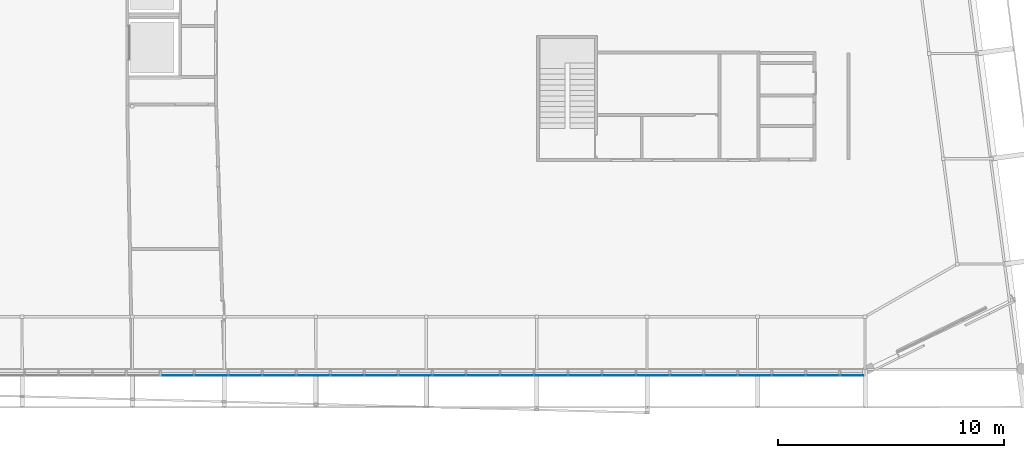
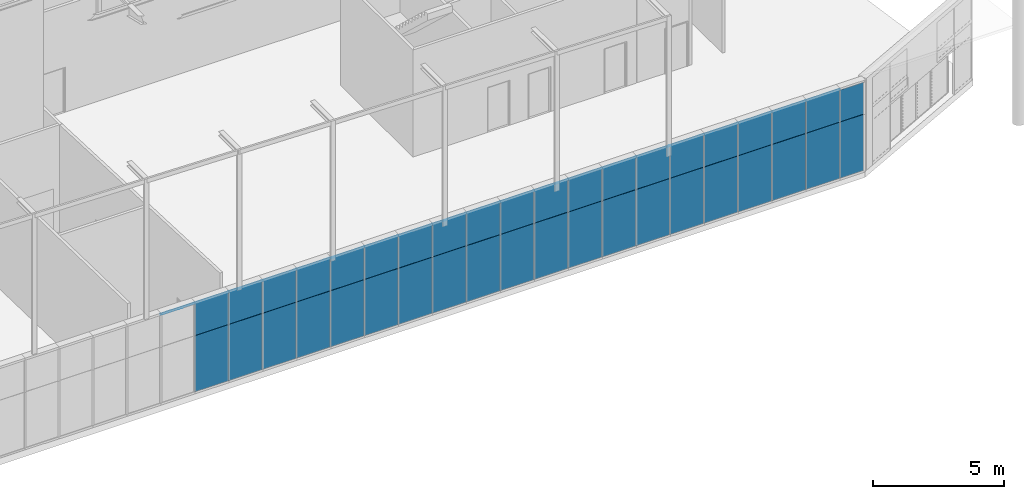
# One storey, part 21 of 40: 60 plates, 1 element without a shape of its own.
"""IFC2X3 building model written with IfcOpenShell, lengths in metres."""

from ifc_helpers import new_model, entity, si_unit, converted_unit, money_unit, direction, frame, origin_with_axes, place, context, subcontext, project, spatial, polyline, outline, extrude, material, type_object, element, aggregate, save


model = new_model("IFC2X3")

# Units and contexts
model_context = context("Model", 3, precision=1e-05, world=origin_with_axes(), true_north=direction((0.0, 1.0)))
body_context = subcontext(model_context, "Body", "Model", "MODEL_VIEW")
ifc_project = project(units=[si_unit("LENGTHUNIT", "METRE"), si_unit("AREAUNIT", "SQUARE_METRE"), si_unit("VOLUMEUNIT", "CUBIC_METRE"), converted_unit("PLANEANGLEUNIT", "DEGREE", entity("IfcPlaneAngleMeasure", 0.0174532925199), si_unit("PLANEANGLEUNIT", "RADIAN"), dimensions=[0, 0, 0, 0, 0, 0, 0]), si_unit("SOLIDANGLEUNIT", "STERADIAN"), money_unit("EUR"), converted_unit("TIMEUNIT", "Year", entity("IfcTimeMeasure", 31556926.0), si_unit("TIMEUNIT", "SECOND"), dimensions=[0, 0, 0, 0, 0, 0, 0]), si_unit("MASSUNIT", "GRAM"), si_unit("THERMODYNAMICTEMPERATUREUNIT", "DEGREE_CELSIUS"), si_unit("LUMINOUSINTENSITYUNIT", "LUMEN")], contexts=[model_context])

# Site, building, storey
site_placement = place(None, origin_with_axes())
site = spatial("IfcSite", under=ifc_project, at=site_placement, Name="Undefined", CompositionType="ELEMENT")
building_placement = place(site_placement, origin_with_axes())
building = spatial("IfcBuilding", under=site, at=building_placement, Name="Undefined", CompositionType="ELEMENT")
storey_placement = place(building_placement, origin_with_axes())
storey = spatial("IfcBuildingStorey", under=building, at=storey_placement, Name="Rez de chauss\x8ee", CompositionType="ELEMENT", Elevation=0.0)

# Curtain wall, plates
curtain_wall_type = type_object("IfcCurtainWallType", Name="Type de mur-rideau", PredefinedType="NOTDEFINED")
curtain_wall_placement = place(storey_placement, frame((61.0415862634, -0.249999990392, 0.1), z_axis=(0.0, 0.0, 1.0), x_axis=(1.0, 0.0, 0.0)))
curtain_wall = element("IfcCurtainWall", 1, at=curtain_wall_placement, inside=storey, type_object=curtain_wall_type, Name="CurtainWall_02", ObjectType="CURTAIN WALL")
ifc_material = material(Name="Background 7019220")
plate_type_1 = type_object("IfcPlateType", Name="Panneau secondaire 1037 x 2625 x 20", PredefinedType="NOTDEFINED")
plate_1_placement = place(curtain_wall_placement, frame((0.0, 0.0, 1.35), z_axis=(0.0, 0.0, 1.0), x_axis=(-1.0, 1.7206718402e-08, 0.0)))
plate_1 = element("IfcPlate", 2, at=plate_1_placement, type_object=plate_type_1, material=ifc_material, Name="Panel-Dist-958", context=body_context, shape_type="SweptSolid", body=[
    extrude(outline(polyline([(0.01, 0.17), (1.04682746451, 0.17), (1.04682746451, 2.795), (0.01, 2.795), (0.01, 0.17)])), frame((0.558413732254, 0.0, -1.45), z_axis=(0.0, 1.0, 0.0), x_axis=(-1.0, 0.0, 0.0)), (0.0, 0.0, 1.0), 0.02),
])
plate_type_2 = type_object("IfcPlateType", Name="Panneau secondaire 1480 x 2625 x 20", PredefinedType="NOTDEFINED")
plate_2_placement = place(curtain_wall_placement, frame((-28.3084137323, 4.87094903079e-07, 1.35), z_axis=(0.0, 0.0, 1.0), x_axis=(-1.0, 1.72067183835e-08, 0.0)))
plate_2 = element("IfcPlate", 3, at=plate_2_placement, type_object=plate_type_2, material=ifc_material, Name="Panel-Dist-958", context=body_context, shape_type="SweptSolid", body=[
    extrude(outline(polyline([(0.01, 0.17), (1.49, 0.17), (1.49, 2.795), (0.01, 2.795), (0.01, 0.17)])), frame((0.75, 0.0, -1.45), z_axis=(0.0, 1.0, 0.0), x_axis=(-1.0, 0.0, 0.0)), (0.0, 0.0, 1.0), 0.02),
])
plate_3_placement = place(curtain_wall_placement, frame((-26.8084137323, 4.61284825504e-07, 1.35), z_axis=(0.0, 0.0, 1.0), x_axis=(-1.0, 1.72067183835e-08, 0.0)))
plate_3 = element("IfcPlate", 4, at=plate_3_placement, type_object=plate_type_2, material=ifc_material, Name="Panel-Dist-958", context=body_context, shape_type="SweptSolid", body=[
    extrude(outline(polyline([(0.01, 0.17), (1.49, 0.17), (1.49, 2.795), (0.01, 2.795), (0.01, 0.17)])), frame((0.75, 0.0, -1.45), z_axis=(0.0, 1.0, 0.0), x_axis=(-1.0, 0.0, 0.0)), (0.0, 0.0, 1.0), 0.02),
])
plate_4_placement = place(curtain_wall_placement, frame((-25.3084137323, 4.35474747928e-07, 1.35), z_axis=(0.0, 0.0, 1.0), x_axis=(-1.0, 1.72067183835e-08, 0.0)))
plate_4 = element("IfcPlate", 5, at=plate_4_placement, type_object=plate_type_2, material=ifc_material, Name="Panel-Dist-958", context=body_context, shape_type="SweptSolid", body=[
    extrude(outline(polyline([(0.01, 0.17), (1.49, 0.17), (1.49, 2.795), (0.01, 2.795), (0.01, 0.17)])), frame((0.75, 0.0, -1.45), z_axis=(0.0, 1.0, 0.0), x_axis=(-1.0, 0.0, 0.0)), (0.0, 0.0, 1.0), 0.02),
])
plate_5_placement = place(curtain_wall_placement, frame((-23.8084137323, 4.09664670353e-07, 1.35), z_axis=(0.0, 0.0, 1.0), x_axis=(-1.0, 1.7206718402e-08, 0.0)))
plate_5 = element("IfcPlate", 6, at=plate_5_placement, type_object=plate_type_2, material=ifc_material, Name="Panel-Dist-958", context=body_context, shape_type="SweptSolid", body=[
    extrude(outline(polyline([(0.01, 0.17), (1.49, 0.17), (1.49, 2.795), (0.01, 2.795), (0.01, 0.17)])), frame((0.75, 0.0, -1.45), z_axis=(0.0, 1.0, 0.0), x_axis=(-1.0, 0.0, 0.0)), (0.0, 0.0, 1.0), 0.02),
])
plate_6_placement = place(curtain_wall_placement, frame((-22.3084137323, 3.8385459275e-07, 1.35), z_axis=(0.0, 0.0, 1.0), x_axis=(-1.0, 1.72067183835e-08, 0.0)))
plate_6 = element("IfcPlate", 7, at=plate_6_placement, type_object=plate_type_2, material=ifc_material, Name="Panel-Dist-958", context=body_context, shape_type="SweptSolid", body=[
    extrude(outline(polyline([(0.01, 0.17), (1.49, 0.17), (1.49, 2.795), (0.01, 2.795), (0.01, 0.17)])), frame((0.75, 0.0, -1.45), z_axis=(0.0, 1.0, 0.0), x_axis=(-1.0, 0.0, 0.0)), (0.0, 0.0, 1.0), 0.02),
])
plate_7_placement = place(curtain_wall_placement, frame((-20.8084137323, 3.58044515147e-07, 1.35), z_axis=(0.0, 0.0, 1.0), x_axis=(-1.0, 1.72067183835e-08, 0.0)))
plate_7 = element("IfcPlate", 8, at=plate_7_placement, type_object=plate_type_2, material=ifc_material, Name="Panel-Dist-958", context=body_context, shape_type="SweptSolid", body=[
    extrude(outline(polyline([(0.01, 0.17), (1.49, 0.17), (1.49, 2.795), (0.01, 2.795), (0.01, 0.17)])), frame((0.75, 0.0, -1.45), z_axis=(0.0, 1.0, 0.0), x_axis=(-1.0, 0.0, 0.0)), (0.0, 0.0, 1.0), 0.02),
])
plate_8_placement = place(curtain_wall_placement, frame((-19.3084137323, 3.322344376e-07, 1.35), z_axis=(0.0, 0.0, 1.0), x_axis=(-1.0, 1.72067183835e-08, 0.0)))
plate_8 = element("IfcPlate", 9, at=plate_8_placement, type_object=plate_type_2, material=ifc_material, Name="Panel-Dist-958", context=body_context, shape_type="SweptSolid", body=[
    extrude(outline(polyline([(0.01, 0.17), (1.49, 0.17), (1.49, 2.795), (0.01, 2.795), (0.01, 0.17)])), frame((0.75, 0.0, -1.45), z_axis=(0.0, 1.0, 0.0), x_axis=(-1.0, 0.0, 0.0)), (0.0, 0.0, 1.0), 0.02),
])
plate_9_placement = place(curtain_wall_placement, frame((-17.8084137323, 3.06424359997e-07, 1.35), z_axis=(0.0, 0.0, 1.0), x_axis=(-1.0, 1.7206718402e-08, 0.0)))
plate_9 = element("IfcPlate", 10, at=plate_9_placement, type_object=plate_type_2, material=ifc_material, Name="Panel-Dist-958", context=body_context, shape_type="SweptSolid", body=[
    extrude(outline(polyline([(0.01, 0.17), (1.49, 0.17), (1.49, 2.795), (0.01, 2.795), (0.01, 0.17)])), frame((0.75, 0.0, -1.45), z_axis=(0.0, 1.0, 0.0), x_axis=(-1.0, 0.0, 0.0)), (0.0, 0.0, 1.0), 0.02),
])
plate_10_placement = place(curtain_wall_placement, frame((-16.3084137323, 2.80614282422e-07, 1.35), z_axis=(0.0, 0.0, 1.0), x_axis=(-1.0, 1.72067183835e-08, 0.0)))
plate_10 = element("IfcPlate", 11, at=plate_10_placement, type_object=plate_type_2, material=ifc_material, Name="Panel-Dist-958", context=body_context, shape_type="SweptSolid", body=[
    extrude(outline(polyline([(0.01, 0.17), (1.49, 0.17), (1.49, 2.795), (0.01, 2.795), (0.01, 0.17)])), frame((0.75, 0.0, -1.45), z_axis=(0.0, 1.0, 0.0), x_axis=(-1.0, 0.0, 0.0)), (0.0, 0.0, 1.0), 0.02),
])
plate_11_placement = place(curtain_wall_placement, frame((-14.8084137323, 2.54804204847e-07, 1.35), z_axis=(0.0, 0.0, 1.0), x_axis=(-1.0, 1.72067183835e-08, 0.0)))
plate_11 = element("IfcPlate", 12, at=plate_11_placement, type_object=plate_type_2, material=ifc_material, Name="Panel-Dist-958", context=body_context, shape_type="SweptSolid", body=[
    extrude(outline(polyline([(0.01, 0.17), (1.49, 0.17), (1.49, 2.795), (0.01, 2.795), (0.01, 0.17)])), frame((0.75, 0.0, -1.45), z_axis=(0.0, 1.0, 0.0), x_axis=(-1.0, 0.0, 0.0)), (0.0, 0.0, 1.0), 0.02),
])
plate_12_placement = place(curtain_wall_placement, frame((-13.3084137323, 2.28994127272e-07, 1.35), z_axis=(0.0, 0.0, 1.0), x_axis=(-1.0, 1.72067183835e-08, 0.0)))
plate_12 = element("IfcPlate", 13, at=plate_12_placement, type_object=plate_type_2, material=ifc_material, Name="Panel-Dist-958", context=body_context, shape_type="SweptSolid", body=[
    extrude(outline(polyline([(0.01, 0.17), (1.49, 0.17), (1.49, 2.795), (0.01, 2.795), (0.01, 0.17)])), frame((0.75, 0.0, -1.45), z_axis=(0.0, 1.0, 0.0), x_axis=(-1.0, 0.0, 0.0)), (0.0, 0.0, 1.0), 0.02),
])
plate_13_placement = place(curtain_wall_placement, frame((-11.8084137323, 2.03184049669e-07, 1.35), z_axis=(0.0, 0.0, 1.0), x_axis=(-1.0, 1.7206718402e-08, 0.0)))
plate_13 = element("IfcPlate", 14, at=plate_13_placement, type_object=plate_type_2, material=ifc_material, Name="Panel-Dist-958", context=body_context, shape_type="SweptSolid", body=[
    extrude(outline(polyline([(0.01, 0.17), (1.49, 0.17), (1.49, 2.795), (0.01, 2.795), (0.01, 0.17)])), frame((0.75, 0.0, -1.45), z_axis=(0.0, 1.0, 0.0), x_axis=(-1.0, 0.0, 0.0)), (0.0, 0.0, 1.0), 0.02),
])
plate_14_placement = place(curtain_wall_placement, frame((-10.3084137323, 1.77373972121e-07, 1.35), z_axis=(0.0, 0.0, 1.0), x_axis=(-1.0, 1.72067183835e-08, 0.0)))
plate_14 = element("IfcPlate", 15, at=plate_14_placement, type_object=plate_type_2, material=ifc_material, Name="Panel-Dist-958", context=body_context, shape_type="SweptSolid", body=[
    extrude(outline(polyline([(0.01, 0.17), (1.49, 0.17), (1.49, 2.795), (0.01, 2.795), (0.01, 0.17)])), frame((0.75, 0.0, -1.45), z_axis=(0.0, 1.0, 0.0), x_axis=(-1.0, 0.0, 0.0)), (0.0, 0.0, 1.0), 0.02),
])
plate_15_placement = place(curtain_wall_placement, frame((-8.80841373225, 1.51563894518e-07, 1.35), z_axis=(0.0, 0.0, 1.0), x_axis=(-1.0, 1.72067183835e-08, 0.0)))
plate_15 = element("IfcPlate", 16, at=plate_15_placement, type_object=plate_type_2, material=ifc_material, Name="Panel-Dist-958", context=body_context, shape_type="SweptSolid", body=[
    extrude(outline(polyline([(0.01, 0.17), (1.49, 0.17), (1.49, 2.795), (0.01, 2.795), (0.01, 0.17)])), frame((0.75, 0.0, -1.45), z_axis=(0.0, 1.0, 0.0), x_axis=(-1.0, 0.0, 0.0)), (0.0, 0.0, 1.0), 0.02),
])
plate_16_placement = place(curtain_wall_placement, frame((-7.30841373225, 1.25753816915e-07, 1.35), z_axis=(0.0, 0.0, 1.0), x_axis=(-1.0, 1.72067183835e-08, 0.0)))
plate_16 = element("IfcPlate", 17, at=plate_16_placement, type_object=plate_type_2, material=ifc_material, Name="Panel-Dist-958", context=body_context, shape_type="SweptSolid", body=[
    extrude(outline(polyline([(0.01, 0.17), (1.49, 0.17), (1.49, 2.795), (0.01, 2.795), (0.01, 0.17)])), frame((0.75, 0.0, -1.45), z_axis=(0.0, 1.0, 0.0), x_axis=(-1.0, 0.0, 0.0)), (0.0, 0.0, 1.0), 0.02),
])
plate_17_placement = place(curtain_wall_placement, frame((-5.80841373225, 9.99437393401e-08, 1.35), z_axis=(0.0, 0.0, 1.0), x_axis=(-1.0, 1.7206718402e-08, 0.0)))
plate_17 = element("IfcPlate", 18, at=plate_17_placement, type_object=plate_type_2, material=ifc_material, Name="Panel-Dist-958", context=body_context, shape_type="SweptSolid", body=[
    extrude(outline(polyline([(0.01, 0.17), (1.49, 0.17), (1.49, 2.795), (0.01, 2.795), (0.01, 0.17)])), frame((0.75, 0.0, -1.45), z_axis=(0.0, 1.0, 0.0), x_axis=(-1.0, 0.0, 0.0)), (0.0, 0.0, 1.0), 0.02),
])
plate_18_placement = place(curtain_wall_placement, frame((-4.30841373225, 7.41336617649e-08, 1.35), z_axis=(0.0, 0.0, 1.0), x_axis=(-1.0, 1.72067183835e-08, 0.0)))
plate_18 = element("IfcPlate", 19, at=plate_18_placement, type_object=plate_type_2, material=ifc_material, Name="Panel-Dist-958", context=body_context, shape_type="SweptSolid", body=[
    extrude(outline(polyline([(0.01, 0.17), (1.49, 0.17), (1.49, 2.795), (0.01, 2.795), (0.01, 0.17)])), frame((0.75, 0.0, -1.45), z_axis=(0.0, 1.0, 0.0), x_axis=(-1.0, 0.0, 0.0)), (0.0, 0.0, 1.0), 0.02),
])
plate_19_placement = place(curtain_wall_placement, frame((-2.80841373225, 4.83235841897e-08, 1.35), z_axis=(0.0, 0.0, 1.0), x_axis=(-1.0, 1.72067183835e-08, 0.0)))
plate_19 = element("IfcPlate", 20, at=plate_19_placement, type_object=plate_type_2, material=ifc_material, Name="Panel-Dist-958", context=body_context, shape_type="SweptSolid", body=[
    extrude(outline(polyline([(0.01, 0.17), (1.49, 0.17), (1.49, 2.795), (0.01, 2.795), (0.01, 0.17)])), frame((0.75, 0.0, -1.45), z_axis=(0.0, 1.0, 0.0), x_axis=(-1.0, 0.0, 0.0)), (0.0, 0.0, 1.0), 0.02),
])
plate_20_placement = place(curtain_wall_placement, frame((-1.30841373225, 2.25135066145e-08, 1.35), z_axis=(0.0, 0.0, 1.0), x_axis=(-1.0, 1.72067183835e-08, 0.0)))
plate_20 = element("IfcPlate", 21, at=plate_20_placement, type_object=plate_type_2, material=ifc_material, Name="Panel-Dist-958", context=body_context, shape_type="SweptSolid", body=[
    extrude(outline(polyline([(0.01, 0.17), (1.49, 0.17), (1.49, 2.795), (0.01, 2.795), (0.01, 0.17)])), frame((0.75, 0.0, -1.45), z_axis=(0.0, 1.0, 0.0), x_axis=(-1.0, 0.0, 0.0)), (0.0, 0.0, 1.0), 0.02),
])
plate_type_3 = type_object("IfcPlateType", Name="Panneau secondaire 1480 x 1490 x 20", PredefinedType="NOTDEFINED")
plate_21_placement = place(curtain_wall_placement, frame((-28.3084137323, 4.87094903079e-07, 3.45), z_axis=(0.0, 0.0, 1.0), x_axis=(-1.0, 1.72067183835e-08, 0.0)))
plate_21 = element("IfcPlate", 22, at=plate_21_placement, type_object=plate_type_3, material=ifc_material, Name="Panel-Dist-958", context=body_context, shape_type="SweptSolid", body=[
    extrude(outline(polyline([(0.01, 0.005), (1.49, 0.005), (1.49, 1.495), (0.01, 1.495), (0.01, 0.005)])), frame((0.75, 0.0, -0.75), z_axis=(0.0, 1.0, 0.0), x_axis=(-1.0, 0.0, 0.0)), (0.0, 0.0, 1.0), 0.02),
])
plate_22_placement = place(curtain_wall_placement, frame((-25.3084137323, 4.35474747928e-07, 3.45), z_axis=(0.0, 0.0, 1.0), x_axis=(-1.0, 1.72067183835e-08, 0.0)))
plate_22 = element("IfcPlate", 23, at=plate_22_placement, type_object=plate_type_3, material=ifc_material, Name="Panel-Dist-958", context=body_context, shape_type="SweptSolid", body=[
    extrude(outline(polyline([(0.01, 0.005), (1.49, 0.005), (1.49, 1.495), (0.01, 1.495), (0.01, 0.005)])), frame((0.75, 0.0, -0.75), z_axis=(0.0, 1.0, 0.0), x_axis=(-1.0, 0.0, 0.0)), (0.0, 0.0, 1.0), 0.02),
])
plate_23_placement = place(curtain_wall_placement, frame((-22.3084137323, 3.8385459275e-07, 3.45), z_axis=(0.0, 0.0, 1.0), x_axis=(-1.0, 1.72067183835e-08, 0.0)))
plate_23 = element("IfcPlate", 24, at=plate_23_placement, type_object=plate_type_3, material=ifc_material, Name="Panel-Dist-958", context=body_context, shape_type="SweptSolid", body=[
    extrude(outline(polyline([(0.01, 0.005), (1.49, 0.005), (1.49, 1.495), (0.01, 1.495), (0.01, 0.005)])), frame((0.75, 0.0, -0.75), z_axis=(0.0, 1.0, 0.0), x_axis=(-1.0, 0.0, 0.0)), (0.0, 0.0, 1.0), 0.02),
])
plate_24_placement = place(curtain_wall_placement, frame((-19.3084137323, 3.322344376e-07, 3.45), z_axis=(0.0, 0.0, 1.0), x_axis=(-1.0, 1.72067183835e-08, 0.0)))
plate_24 = element("IfcPlate", 25, at=plate_24_placement, type_object=plate_type_3, material=ifc_material, Name="Panel-Dist-958", context=body_context, shape_type="SweptSolid", body=[
    extrude(outline(polyline([(0.01, 0.005), (1.49, 0.005), (1.49, 1.495), (0.01, 1.495), (0.01, 0.005)])), frame((0.75, 0.0, -0.75), z_axis=(0.0, 1.0, 0.0), x_axis=(-1.0, 0.0, 0.0)), (0.0, 0.0, 1.0), 0.02),
])
plate_25_placement = place(curtain_wall_placement, frame((-16.3084137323, 2.80614282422e-07, 3.45), z_axis=(0.0, 0.0, 1.0), x_axis=(-1.0, 1.72067183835e-08, 0.0)))
plate_25 = element("IfcPlate", 26, at=plate_25_placement, type_object=plate_type_3, material=ifc_material, Name="Panel-Dist-958", context=body_context, shape_type="SweptSolid", body=[
    extrude(outline(polyline([(0.01, 0.005), (1.49, 0.005), (1.49, 1.495), (0.01, 1.495), (0.01, 0.005)])), frame((0.75, 0.0, -0.75), z_axis=(0.0, 1.0, 0.0), x_axis=(-1.0, 0.0, 0.0)), (0.0, 0.0, 1.0), 0.02),
])
plate_26_placement = place(curtain_wall_placement, frame((-13.3084137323, 2.28994127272e-07, 3.45), z_axis=(0.0, 0.0, 1.0), x_axis=(-1.0, 1.72067183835e-08, 0.0)))
plate_26 = element("IfcPlate", 27, at=plate_26_placement, type_object=plate_type_3, material=ifc_material, Name="Panel-Dist-958", context=body_context, shape_type="SweptSolid", body=[
    extrude(outline(polyline([(0.01, 0.005), (1.49, 0.005), (1.49, 1.495), (0.01, 1.495), (0.01, 0.005)])), frame((0.75, 0.0, -0.75), z_axis=(0.0, 1.0, 0.0), x_axis=(-1.0, 0.0, 0.0)), (0.0, 0.0, 1.0), 0.02),
])
plate_27_placement = place(curtain_wall_placement, frame((-10.3084137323, 1.77373972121e-07, 3.45), z_axis=(0.0, 0.0, 1.0), x_axis=(-1.0, 1.72067183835e-08, 0.0)))
plate_27 = element("IfcPlate", 28, at=plate_27_placement, type_object=plate_type_3, material=ifc_material, Name="Panel-Dist-958", context=body_context, shape_type="SweptSolid", body=[
    extrude(outline(polyline([(0.01, 0.005), (1.49, 0.005), (1.49, 1.495), (0.01, 1.495), (0.01, 0.005)])), frame((0.75, 0.0, -0.75), z_axis=(0.0, 1.0, 0.0), x_axis=(-1.0, 0.0, 0.0)), (0.0, 0.0, 1.0), 0.02),
])
plate_28_placement = place(curtain_wall_placement, frame((-7.30841373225, 1.25753816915e-07, 3.45), z_axis=(0.0, 0.0, 1.0), x_axis=(-1.0, 1.72067183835e-08, 0.0)))
plate_28 = element("IfcPlate", 29, at=plate_28_placement, type_object=plate_type_3, material=ifc_material, Name="Panel-Dist-958", context=body_context, shape_type="SweptSolid", body=[
    extrude(outline(polyline([(0.01, 0.005), (1.49, 0.005), (1.49, 1.495), (0.01, 1.495), (0.01, 0.005)])), frame((0.75, 0.0, -0.75), z_axis=(0.0, 1.0, 0.0), x_axis=(-1.0, 0.0, 0.0)), (0.0, 0.0, 1.0), 0.02),
])
plate_29_placement = place(curtain_wall_placement, frame((-4.30841373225, 7.41336617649e-08, 3.45), z_axis=(0.0, 0.0, 1.0), x_axis=(-1.0, 1.72067183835e-08, 0.0)))
plate_29 = element("IfcPlate", 30, at=plate_29_placement, type_object=plate_type_3, material=ifc_material, Name="Panel-Dist-958", context=body_context, shape_type="SweptSolid", body=[
    extrude(outline(polyline([(0.01, 0.005), (1.49, 0.005), (1.49, 1.495), (0.01, 1.495), (0.01, 0.005)])), frame((0.75, 0.0, -0.75), z_axis=(0.0, 1.0, 0.0), x_axis=(-1.0, 0.0, 0.0)), (0.0, 0.0, 1.0), 0.02),
])
plate_30_placement = place(curtain_wall_placement, frame((-1.30841373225, 2.25135066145e-08, 3.45), z_axis=(0.0, 0.0, 1.0), x_axis=(-1.0, 1.72067183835e-08, 0.0)))
plate_30 = element("IfcPlate", 31, at=plate_30_placement, type_object=plate_type_3, material=ifc_material, Name="Panel-Dist-958", context=body_context, shape_type="SweptSolid", body=[
    extrude(outline(polyline([(0.01, 0.005), (1.49, 0.005), (1.49, 1.495), (0.01, 1.495), (0.01, 0.005)])), frame((0.75, 0.0, -0.75), z_axis=(0.0, 1.0, 0.0), x_axis=(-1.0, 0.0, 0.0)), (0.0, 0.0, 1.0), 0.02),
])
plate_type_4 = type_object("IfcPlateType", Name="Panneau principal 1480 x 1490 x 20", PredefinedType="NOTDEFINED")
plate_31_placement = place(curtain_wall_placement, frame((-26.8084137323, 4.61284825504e-07, 3.45), z_axis=(0.0, 0.0, 1.0), x_axis=(-1.0, 1.72067183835e-08, 0.0)))
plate_31 = element("IfcPlate", 32, at=plate_31_placement, type_object=plate_type_4, material=ifc_material, Name="Panel-Dist-997", context=body_context, shape_type="SweptSolid", body=[
    extrude(outline(polyline([(0.01, 0.005), (1.49, 0.005), (1.49, 1.495), (0.01, 1.495), (0.01, 0.005)])), frame((0.75, 0.0, -0.75), z_axis=(0.0, 1.0, 0.0), x_axis=(-1.0, 0.0, 0.0)), (0.0, 0.0, 1.0), 0.02),
])
plate_32_placement = place(curtain_wall_placement, frame((-23.8084137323, 4.09664670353e-07, 3.45), z_axis=(0.0, 0.0, 1.0), x_axis=(-1.0, 1.7206718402e-08, 0.0)))
plate_32 = element("IfcPlate", 33, at=plate_32_placement, type_object=plate_type_4, material=ifc_material, Name="Panel-Dist-997", context=body_context, shape_type="SweptSolid", body=[
    extrude(outline(polyline([(0.01, 0.005), (1.49, 0.005), (1.49, 1.495), (0.01, 1.495), (0.01, 0.005)])), frame((0.75, 0.0, -0.75), z_axis=(0.0, 1.0, 0.0), x_axis=(-1.0, 0.0, 0.0)), (0.0, 0.0, 1.0), 0.02),
])
plate_33_placement = place(curtain_wall_placement, frame((-20.8084137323, 3.58044515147e-07, 3.45), z_axis=(0.0, 0.0, 1.0), x_axis=(-1.0, 1.72067183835e-08, 0.0)))
plate_33 = element("IfcPlate", 34, at=plate_33_placement, type_object=plate_type_4, material=ifc_material, Name="Panel-Dist-997", context=body_context, shape_type="SweptSolid", body=[
    extrude(outline(polyline([(0.01, 0.005), (1.49, 0.005), (1.49, 1.495), (0.01, 1.495), (0.01, 0.005)])), frame((0.75, 0.0, -0.75), z_axis=(0.0, 1.0, 0.0), x_axis=(-1.0, 0.0, 0.0)), (0.0, 0.0, 1.0), 0.02),
])
plate_34_placement = place(curtain_wall_placement, frame((-17.8084137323, 3.06424359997e-07, 3.45), z_axis=(0.0, 0.0, 1.0), x_axis=(-1.0, 1.7206718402e-08, 0.0)))
plate_34 = element("IfcPlate", 35, at=plate_34_placement, type_object=plate_type_4, material=ifc_material, Name="Panel-Dist-997", context=body_context, shape_type="SweptSolid", body=[
    extrude(outline(polyline([(0.01, 0.005), (1.49, 0.005), (1.49, 1.495), (0.01, 1.495), (0.01, 0.005)])), frame((0.75, 0.0, -0.75), z_axis=(0.0, 1.0, 0.0), x_axis=(-1.0, 0.0, 0.0)), (0.0, 0.0, 1.0), 0.02),
])
plate_35_placement = place(curtain_wall_placement, frame((-14.8084137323, 2.54804204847e-07, 3.45), z_axis=(0.0, 0.0, 1.0), x_axis=(-1.0, 1.72067183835e-08, 0.0)))
plate_35 = element("IfcPlate", 36, at=plate_35_placement, type_object=plate_type_4, material=ifc_material, Name="Panel-Dist-997", context=body_context, shape_type="SweptSolid", body=[
    extrude(outline(polyline([(0.01, 0.005), (1.49, 0.005), (1.49, 1.495), (0.01, 1.495), (0.01, 0.005)])), frame((0.75, 0.0, -0.75), z_axis=(0.0, 1.0, 0.0), x_axis=(-1.0, 0.0, 0.0)), (0.0, 0.0, 1.0), 0.02),
])
plate_36_placement = place(curtain_wall_placement, frame((-11.8084137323, 2.03184049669e-07, 3.45), z_axis=(0.0, 0.0, 1.0), x_axis=(-1.0, 1.7206718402e-08, 0.0)))
plate_36 = element("IfcPlate", 37, at=plate_36_placement, type_object=plate_type_4, material=ifc_material, Name="Panel-Dist-997", context=body_context, shape_type="SweptSolid", body=[
    extrude(outline(polyline([(0.01, 0.005), (1.49, 0.005), (1.49, 1.495), (0.01, 1.495), (0.01, 0.005)])), frame((0.75, 0.0, -0.75), z_axis=(0.0, 1.0, 0.0), x_axis=(-1.0, 0.0, 0.0)), (0.0, 0.0, 1.0), 0.02),
])
plate_37_placement = place(curtain_wall_placement, frame((-8.80841373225, 1.51563894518e-07, 3.45), z_axis=(0.0, 0.0, 1.0), x_axis=(-1.0, 1.72067183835e-08, 0.0)))
plate_37 = element("IfcPlate", 38, at=plate_37_placement, type_object=plate_type_4, material=ifc_material, Name="Panel-Dist-997", context=body_context, shape_type="SweptSolid", body=[
    extrude(outline(polyline([(0.01, 0.005), (1.49, 0.005), (1.49, 1.495), (0.01, 1.495), (0.01, 0.005)])), frame((0.75, 0.0, -0.75), z_axis=(0.0, 1.0, 0.0), x_axis=(-1.0, 0.0, 0.0)), (0.0, 0.0, 1.0), 0.02),
])
plate_38_placement = place(curtain_wall_placement, frame((-5.80841373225, 9.99437393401e-08, 3.45), z_axis=(0.0, 0.0, 1.0), x_axis=(-1.0, 1.7206718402e-08, 0.0)))
plate_38 = element("IfcPlate", 39, at=plate_38_placement, type_object=plate_type_4, material=ifc_material, Name="Panel-Dist-997", context=body_context, shape_type="SweptSolid", body=[
    extrude(outline(polyline([(0.01, 0.005), (1.49, 0.005), (1.49, 1.495), (0.01, 1.495), (0.01, 0.005)])), frame((0.75, 0.0, -0.75), z_axis=(0.0, 1.0, 0.0), x_axis=(-1.0, 0.0, 0.0)), (0.0, 0.0, 1.0), 0.02),
])
plate_39_placement = place(curtain_wall_placement, frame((-2.80841373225, 4.83235841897e-08, 3.45), z_axis=(0.0, 0.0, 1.0), x_axis=(-1.0, 1.72067183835e-08, 0.0)))
plate_39 = element("IfcPlate", 40, at=plate_39_placement, type_object=plate_type_4, material=ifc_material, Name="Panel-Dist-997", context=body_context, shape_type="SweptSolid", body=[
    extrude(outline(polyline([(0.01, 0.005), (1.49, 0.005), (1.49, 1.495), (0.01, 1.495), (0.01, 0.005)])), frame((0.75, 0.0, -0.75), z_axis=(0.0, 1.0, 0.0), x_axis=(-1.0, 0.0, 0.0)), (0.0, 0.0, 1.0), 0.02),
])
plate_type_5 = type_object("IfcPlateType", Name="Panneau principal 1037 x 1490 x 20", PredefinedType="NOTDEFINED")
plate_40_placement = place(curtain_wall_placement, frame((0.0, 0.0, 3.45), z_axis=(0.0, 0.0, 1.0), x_axis=(-1.0, 1.7206718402e-08, 0.0)))
plate_40 = element("IfcPlate", 41, at=plate_40_placement, type_object=plate_type_5, material=ifc_material, Name="Panel-Dist-997", context=body_context, shape_type="SweptSolid", body=[
    extrude(outline(polyline([(0.01, 0.005), (1.04682746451, 0.005), (1.04682746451, 1.495), (0.01, 1.495), (0.01, 0.005)])), frame((0.558413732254, 0.0, -0.75), z_axis=(0.0, 1.0, 0.0), x_axis=(-1.0, 0.0, 0.0)), (0.0, 0.0, 1.0), 0.02),
])
plate_type_6 = type_object("IfcPlateType", Name="Panneau secondaire 1480 x 25 x 20", PredefinedType="NOTDEFINED")
plate_41_placement = place(curtain_wall_placement, frame((-2.80841373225, 4.83235841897e-08, 4.25), z_axis=(0.0, 0.0, 1.0), x_axis=(-1.0, 1.72067183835e-08, 0.0)))
plate_41 = element("IfcPlate", 42, at=plate_41_placement, type_object=plate_type_6, material=ifc_material, Name="Panel-Dist-156", context=body_context, shape_type="SweptSolid", body=[
    extrude(outline(polyline([(0.01, 0.005), (1.49, 0.005), (1.49, 0.03), (0.01, 0.03), (0.01, 0.005)])), frame((0.75, 0.0, -0.05), z_axis=(0.0, 1.0, 0.0), x_axis=(-1.0, 0.0, 0.0)), (0.0, 0.0, 1.0), 0.02),
])
plate_42_placement = place(curtain_wall_placement, frame((-1.30841373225, 2.25135066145e-08, 4.25), z_axis=(0.0, 0.0, 1.0), x_axis=(-1.0, 1.72067183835e-08, 0.0)))
plate_42 = element("IfcPlate", 43, at=plate_42_placement, type_object=plate_type_6, material=ifc_material, Name="Panel-Dist-157", context=body_context, shape_type="SweptSolid", body=[
    extrude(outline(polyline([(0.01, 0.005), (1.49, 0.005), (1.49, 0.03), (0.01, 0.03), (0.01, 0.005)])), frame((0.75, 0.0, -0.05), z_axis=(0.0, 1.0, 0.0), x_axis=(-1.0, 0.0, 0.0)), (0.0, 0.0, 1.0), 0.02),
])
plate_43_placement = place(curtain_wall_placement, frame((-29.8084137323, 5.12904980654e-07, 4.25), z_axis=(0.0, 0.0, 1.0), x_axis=(-1.0, 1.7206718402e-08, 0.0)))
plate_43 = element("IfcPlate", 44, at=plate_43_placement, type_object=plate_type_6, material=ifc_material, Name="Panel-Dist-138", context=body_context, shape_type="SweptSolid", body=[
    extrude(outline(polyline([(0.01, 0.005), (1.49, 0.005), (1.49, 0.03), (0.01, 0.03), (0.01, 0.005)])), frame((0.75, 0.0, -0.05), z_axis=(0.0, 1.0, 0.0), x_axis=(-1.0, 0.0, 0.0)), (0.0, 0.0, 1.0), 0.02),
])
plate_44_placement = place(curtain_wall_placement, frame((-28.3084137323, 4.87094903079e-07, 4.25), z_axis=(0.0, 0.0, 1.0), x_axis=(-1.0, 1.72067183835e-08, 0.0)))
plate_44 = element("IfcPlate", 45, at=plate_44_placement, type_object=plate_type_6, material=ifc_material, Name="Panel-Dist-139", context=body_context, shape_type="SweptSolid", body=[
    extrude(outline(polyline([(0.01, 0.005), (1.49, 0.005), (1.49, 0.03), (0.01, 0.03), (0.01, 0.005)])), frame((0.75, 0.0, -0.05), z_axis=(0.0, 1.0, 0.0), x_axis=(-1.0, 0.0, 0.0)), (0.0, 0.0, 1.0), 0.02),
])
plate_45_placement = place(curtain_wall_placement, frame((-26.8084137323, 4.61284825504e-07, 4.25), z_axis=(0.0, 0.0, 1.0), x_axis=(-1.0, 1.72067183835e-08, 0.0)))
plate_45 = element("IfcPlate", 46, at=plate_45_placement, type_object=plate_type_6, material=ifc_material, Name="Panel-Dist-140", context=body_context, shape_type="SweptSolid", body=[
    extrude(outline(polyline([(0.01, 0.005), (1.49, 0.005), (1.49, 0.03), (0.01, 0.03), (0.01, 0.005)])), frame((0.75, 0.0, -0.05), z_axis=(0.0, 1.0, 0.0), x_axis=(-1.0, 0.0, 0.0)), (0.0, 0.0, 1.0), 0.02),
])
plate_46_placement = place(curtain_wall_placement, frame((-25.3084137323, 4.35474747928e-07, 4.25), z_axis=(0.0, 0.0, 1.0), x_axis=(-1.0, 1.72067183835e-08, 0.0)))
plate_46 = element("IfcPlate", 47, at=plate_46_placement, type_object=plate_type_6, material=ifc_material, Name="Panel-Dist-141", context=body_context, shape_type="SweptSolid", body=[
    extrude(outline(polyline([(0.01, 0.005), (1.49, 0.005), (1.49, 0.03), (0.01, 0.03), (0.01, 0.005)])), frame((0.75, 0.0, -0.05), z_axis=(0.0, 1.0, 0.0), x_axis=(-1.0, 0.0, 0.0)), (0.0, 0.0, 1.0), 0.02),
])
plate_47_placement = place(curtain_wall_placement, frame((-23.8084137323, 4.09664670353e-07, 4.25), z_axis=(0.0, 0.0, 1.0), x_axis=(-1.0, 1.7206718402e-08, 0.0)))
plate_47 = element("IfcPlate", 48, at=plate_47_placement, type_object=plate_type_6, material=ifc_material, Name="Panel-Dist-142", context=body_context, shape_type="SweptSolid", body=[
    extrude(outline(polyline([(0.01, 0.005), (1.49, 0.005), (1.49, 0.03), (0.01, 0.03), (0.01, 0.005)])), frame((0.75, 0.0, -0.05), z_axis=(0.0, 1.0, 0.0), x_axis=(-1.0, 0.0, 0.0)), (0.0, 0.0, 1.0), 0.02),
])
plate_48_placement = place(curtain_wall_placement, frame((-22.3084137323, 3.8385459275e-07, 4.25), z_axis=(0.0, 0.0, 1.0), x_axis=(-1.0, 1.72067183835e-08, 0.0)))
plate_48 = element("IfcPlate", 49, at=plate_48_placement, type_object=plate_type_6, material=ifc_material, Name="Panel-Dist-143", context=body_context, shape_type="SweptSolid", body=[
    extrude(outline(polyline([(0.01, 0.005), (1.49, 0.005), (1.49, 0.03), (0.01, 0.03), (0.01, 0.005)])), frame((0.75, 0.0, -0.05), z_axis=(0.0, 1.0, 0.0), x_axis=(-1.0, 0.0, 0.0)), (0.0, 0.0, 1.0), 0.02),
])
plate_49_placement = place(curtain_wall_placement, frame((-20.8084137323, 3.58044515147e-07, 4.25), z_axis=(0.0, 0.0, 1.0), x_axis=(-1.0, 1.72067183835e-08, 0.0)))
plate_49 = element("IfcPlate", 50, at=plate_49_placement, type_object=plate_type_6, material=ifc_material, Name="Panel-Dist-144", context=body_context, shape_type="SweptSolid", body=[
    extrude(outline(polyline([(0.01, 0.005), (1.49, 0.005), (1.49, 0.03), (0.01, 0.03), (0.01, 0.005)])), frame((0.75, 0.0, -0.05), z_axis=(0.0, 1.0, 0.0), x_axis=(-1.0, 0.0, 0.0)), (0.0, 0.0, 1.0), 0.02),
])
plate_50_placement = place(curtain_wall_placement, frame((-19.3084137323, 3.322344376e-07, 4.25), z_axis=(0.0, 0.0, 1.0), x_axis=(-1.0, 1.72067183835e-08, 0.0)))
plate_50 = element("IfcPlate", 51, at=plate_50_placement, type_object=plate_type_6, material=ifc_material, Name="Panel-Dist-145", context=body_context, shape_type="SweptSolid", body=[
    extrude(outline(polyline([(0.01, 0.005), (1.49, 0.005), (1.49, 0.03), (0.01, 0.03), (0.01, 0.005)])), frame((0.75, 0.0, -0.05), z_axis=(0.0, 1.0, 0.0), x_axis=(-1.0, 0.0, 0.0)), (0.0, 0.0, 1.0), 0.02),
])
plate_51_placement = place(curtain_wall_placement, frame((-17.8084137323, 3.06424359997e-07, 4.25), z_axis=(0.0, 0.0, 1.0), x_axis=(-1.0, 1.7206718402e-08, 0.0)))
plate_51 = element("IfcPlate", 52, at=plate_51_placement, type_object=plate_type_6, material=ifc_material, Name="Panel-Dist-146", context=body_context, shape_type="SweptSolid", body=[
    extrude(outline(polyline([(0.01, 0.005), (1.49, 0.005), (1.49, 0.03), (0.01, 0.03), (0.01, 0.005)])), frame((0.75, 0.0, -0.05), z_axis=(0.0, 1.0, 0.0), x_axis=(-1.0, 0.0, 0.0)), (0.0, 0.0, 1.0), 0.02),
])
plate_52_placement = place(curtain_wall_placement, frame((-16.3084137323, 2.80614282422e-07, 4.25), z_axis=(0.0, 0.0, 1.0), x_axis=(-1.0, 1.72067183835e-08, 0.0)))
plate_52 = element("IfcPlate", 53, at=plate_52_placement, type_object=plate_type_6, material=ifc_material, Name="Panel-Dist-147", context=body_context, shape_type="SweptSolid", body=[
    extrude(outline(polyline([(0.01, 0.005), (1.49, 0.005), (1.49, 0.03), (0.01, 0.03), (0.01, 0.005)])), frame((0.75, 0.0, -0.05), z_axis=(0.0, 1.0, 0.0), x_axis=(-1.0, 0.0, 0.0)), (0.0, 0.0, 1.0), 0.02),
])
plate_53_placement = place(curtain_wall_placement, frame((-14.8084137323, 2.54804204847e-07, 4.25), z_axis=(0.0, 0.0, 1.0), x_axis=(-1.0, 1.72067183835e-08, 0.0)))
plate_53 = element("IfcPlate", 54, at=plate_53_placement, type_object=plate_type_6, material=ifc_material, Name="Panel-Dist-148", context=body_context, shape_type="SweptSolid", body=[
    extrude(outline(polyline([(0.01, 0.005), (1.49, 0.005), (1.49, 0.03), (0.01, 0.03), (0.01, 0.005)])), frame((0.75, 0.0, -0.05), z_axis=(0.0, 1.0, 0.0), x_axis=(-1.0, 0.0, 0.0)), (0.0, 0.0, 1.0), 0.02),
])
plate_54_placement = place(curtain_wall_placement, frame((-13.3084137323, 2.28994127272e-07, 4.25), z_axis=(0.0, 0.0, 1.0), x_axis=(-1.0, 1.72067183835e-08, 0.0)))
plate_54 = element("IfcPlate", 55, at=plate_54_placement, type_object=plate_type_6, material=ifc_material, Name="Panel-Dist-149", context=body_context, shape_type="SweptSolid", body=[
    extrude(outline(polyline([(0.01, 0.005), (1.49, 0.005), (1.49, 0.03), (0.01, 0.03), (0.01, 0.005)])), frame((0.75, 0.0, -0.05), z_axis=(0.0, 1.0, 0.0), x_axis=(-1.0, 0.0, 0.0)), (0.0, 0.0, 1.0), 0.02),
])
plate_55_placement = place(curtain_wall_placement, frame((-11.8084137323, 2.03184049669e-07, 4.25), z_axis=(0.0, 0.0, 1.0), x_axis=(-1.0, 1.7206718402e-08, 0.0)))
plate_55 = element("IfcPlate", 56, at=plate_55_placement, type_object=plate_type_6, material=ifc_material, Name="Panel-Dist-150", context=body_context, shape_type="SweptSolid", body=[
    extrude(outline(polyline([(0.01, 0.005), (1.49, 0.005), (1.49, 0.03), (0.01, 0.03), (0.01, 0.005)])), frame((0.75, 0.0, -0.05), z_axis=(0.0, 1.0, 0.0), x_axis=(-1.0, 0.0, 0.0)), (0.0, 0.0, 1.0), 0.02),
])
plate_56_placement = place(curtain_wall_placement, frame((-10.3084137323, 1.77373972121e-07, 4.25), z_axis=(0.0, 0.0, 1.0), x_axis=(-1.0, 1.72067183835e-08, 0.0)))
plate_56 = element("IfcPlate", 57, at=plate_56_placement, type_object=plate_type_6, material=ifc_material, Name="Panel-Dist-151", context=body_context, shape_type="SweptSolid", body=[
    extrude(outline(polyline([(0.01, 0.005), (1.49, 0.005), (1.49, 0.03), (0.01, 0.03), (0.01, 0.005)])), frame((0.75, 0.0, -0.05), z_axis=(0.0, 1.0, 0.0), x_axis=(-1.0, 0.0, 0.0)), (0.0, 0.0, 1.0), 0.02),
])
plate_57_placement = place(curtain_wall_placement, frame((-8.80841373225, 1.51563894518e-07, 4.25), z_axis=(0.0, 0.0, 1.0), x_axis=(-1.0, 1.72067183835e-08, 0.0)))
plate_57 = element("IfcPlate", 58, at=plate_57_placement, type_object=plate_type_6, material=ifc_material, Name="Panel-Dist-152", context=body_context, shape_type="SweptSolid", body=[
    extrude(outline(polyline([(0.01, 0.005), (1.49, 0.005), (1.49, 0.03), (0.01, 0.03), (0.01, 0.005)])), frame((0.75, 0.0, -0.05), z_axis=(0.0, 1.0, 0.0), x_axis=(-1.0, 0.0, 0.0)), (0.0, 0.0, 1.0), 0.02),
])
plate_58_placement = place(curtain_wall_placement, frame((-7.30841373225, 1.25753816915e-07, 4.25), z_axis=(0.0, 0.0, 1.0), x_axis=(-1.0, 1.72067183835e-08, 0.0)))
plate_58 = element("IfcPlate", 59, at=plate_58_placement, type_object=plate_type_6, material=ifc_material, Name="Panel-Dist-153", context=body_context, shape_type="SweptSolid", body=[
    extrude(outline(polyline([(0.01, 0.005), (1.49, 0.005), (1.49, 0.03), (0.01, 0.03), (0.01, 0.005)])), frame((0.75, 0.0, -0.05), z_axis=(0.0, 1.0, 0.0), x_axis=(-1.0, 0.0, 0.0)), (0.0, 0.0, 1.0), 0.02),
])
plate_59_placement = place(curtain_wall_placement, frame((-5.80841373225, 9.99437393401e-08, 4.25), z_axis=(0.0, 0.0, 1.0), x_axis=(-1.0, 1.7206718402e-08, 0.0)))
plate_59 = element("IfcPlate", 60, at=plate_59_placement, type_object=plate_type_6, material=ifc_material, Name="Panel-Dist-154", context=body_context, shape_type="SweptSolid", body=[
    extrude(outline(polyline([(0.01, 0.005), (1.49, 0.005), (1.49, 0.03), (0.01, 0.03), (0.01, 0.005)])), frame((0.75, 0.0, -0.05), z_axis=(0.0, 1.0, 0.0), x_axis=(-1.0, 0.0, 0.0)), (0.0, 0.0, 1.0), 0.02),
])
plate_60_placement = place(curtain_wall_placement, frame((-4.30841373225, 7.41336617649e-08, 4.25), z_axis=(0.0, 0.0, 1.0), x_axis=(-1.0, 1.72067183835e-08, 0.0)))
plate_60 = element("IfcPlate", 61, at=plate_60_placement, type_object=plate_type_6, material=ifc_material, Name="Panel-Dist-155", context=body_context, shape_type="SweptSolid", body=[
    extrude(outline(polyline([(0.01, 0.005), (1.49, 0.005), (1.49, 0.03), (0.01, 0.03), (0.01, 0.005)])), frame((0.75, 0.0, -0.05), z_axis=(0.0, 1.0, 0.0), x_axis=(-1.0, 0.0, 0.0)), (0.0, 0.0, 1.0), 0.02),
])
aggregate(curtain_wall, [plate_1, plate_2, plate_3, plate_4, plate_5, plate_6, plate_7, plate_8, plate_9, plate_10, plate_11, plate_12, plate_13, plate_14, plate_15, plate_16, plate_17, plate_18, plate_19, plate_20, plate_21, plate_31, plate_22, plate_32, plate_23, plate_33, plate_24, plate_34, plate_25, plate_35, plate_26, plate_36, plate_27, plate_37, plate_28, plate_38, plate_29, plate_39, plate_30, plate_40, plate_41, plate_42, plate_43, plate_44, plate_45, plate_46, plate_47, plate_48, plate_49, plate_50, plate_51, plate_52, plate_53, plate_54, plate_55, plate_56, plate_57, plate_58, plate_59, plate_60])

save(model, "model.ifc")
